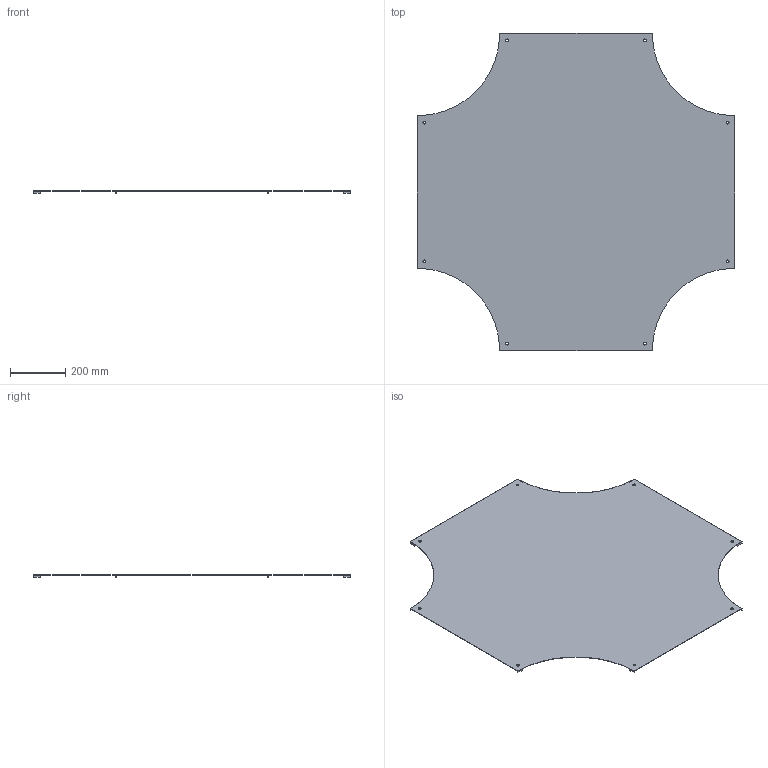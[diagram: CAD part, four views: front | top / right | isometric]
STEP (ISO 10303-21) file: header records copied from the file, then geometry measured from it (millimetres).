
FILE_DESCRIPTION(/* description */ ('','CAx-IF Rec.Pracs.---Representation and Presentation of Product Manufacturing Information (PMI)---4.0---2014-10-13'),/* implementation_level */ '2;1');
FILE_NAME(/* name */ 'Eurostrut_ECOC500-300_Cover Crossover for Cable Ladder ECL.step',/* time_stamp */ '2026-09-10T10:49:51+02:00',/* author */ (''),/* organization */ (''),/* preprocessor_version */ 'ST-DEVELOPER v20.1',/* originating_system */ 'Autodesk Revit 2027 27.2.0.39',/* authorisation */ '');
FILE_SCHEMA (('AP242_MANAGED_MODEL_BASED_3D_ENGINEERING_MIM_LF { 1 0 10303 442 2 1 4 }'));
Length unit declared in the file: millimetre
Products named in the file (6): TopLevelAssembly; Joined Solid Geometry; Joined Solid Geometry_1; Joined Solid Geometry_2; Joined Solid Geometry_3; Joined Solid Geometry_4
Assembly tree (5 placements, depth 2):
  TopLevelAssembly
    Joined Solid Geometry
    Joined Solid Geometry_1
    Joined Solid Geometry_2
    Joined Solid Geometry_3
    Joined Solid Geometry_4
Bounding box: 1150 x 1150 x 9 mm (x, y, z)
Volume: 1565175.7 mm3; surface area: 2094190.2 mm2
Topology: 9 solids, 9 shells, 74 faces, 168 edges, 112 vertices
Faces by surface type: plane 38, cylinder 36
Entity records: 2242 total; most frequent: DIRECTION 410, CARTESIAN_POINT 365, ORIENTED_EDGE 336, EDGE_CURVE 168, AXIS2_PLACEMENT_3D 157, VERTEX_POINT 112, LINE 96, VECTOR 96
